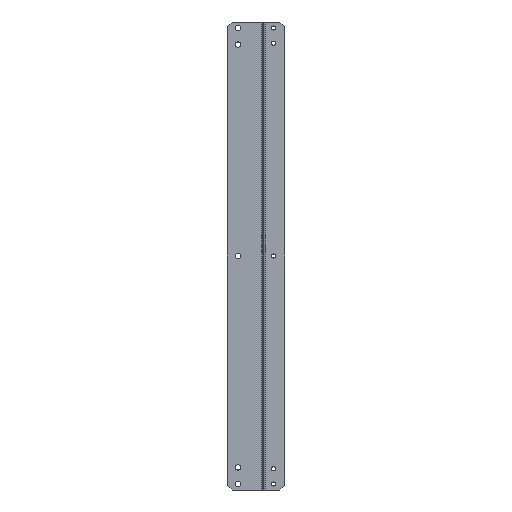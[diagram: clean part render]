
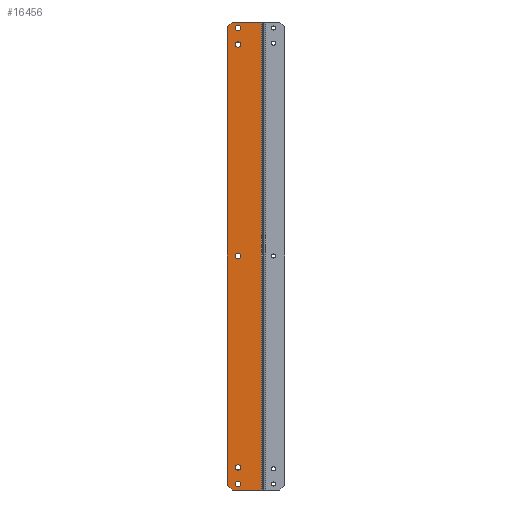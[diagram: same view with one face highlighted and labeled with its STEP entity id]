
A CAD part, left-side view. The second image highlights one B-rep face of the part: STEP entity #16456.
In plain terms, the highlighted planar face has unit normal (-1, 0, 0) as drawn and (1, 0, 0) by its records, which use the part's own axes.
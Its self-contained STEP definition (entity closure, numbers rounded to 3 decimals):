
#14981=CARTESIAN_POINT(' ',(0.,25.,-234.5));
#14982=VERTEX_POINT(' ',#14981);
#14996=CARTESIAN_POINT(' ',(0.,25.,-237.25));
#15001=DIRECTION(' ',(1.,0.,0.));
#15006=DIRECTION(' ',(0.,0.,1.));
#15011=AXIS2_PLACEMENT_3D(' ',#14996,#15001,#15006);
#15016=CIRCLE('',#15011,2.75);
#15021=CARTESIAN_POINT(' ',(0.,25.,-240.));
#15022=VERTEX_POINT(' ',#15021);
#15026=EDGE_CURVE(' ',#14982,#15022,#15016,.T.);
#15781=CARTESIAN_POINT(' ',(0.,25.,-237.25));
#15786=DIRECTION(' ',(1.,0.,0.));
#15791=DIRECTION(' ',(0.,0.,-1.));
#15796=AXIS2_PLACEMENT_3D(' ',#15781,#15786,#15791);
#15801=CIRCLE('',#15796,2.75);
#15806=EDGE_CURVE(' ',#15022,#14982,#15801,.T.);
#15831=DIRECTION(' ',(1.,0.,-0.));
#15836=CARTESIAN_POINT(' ',(0.,0.6,-243.5));
#15841=DIRECTION(' ',(0.,1.,0.));
#15846=AXIS2_PLACEMENT_3D(' ',#15836,#15831,#15841);
#15851=PLANE('NONE',#15846);
#15856=CARTESIAN_POINT(' ',(0.,36.,238.5));
#15861=DIRECTION(' ',(0.,0.,-1.));
#15866=VECTOR(' ',#15861,1.);
#15871=LINE('',#15856,#15866);
#15876=CARTESIAN_POINT(' ',(0.,36.,238.5));
#15877=VERTEX_POINT(' ',#15876);
#15881=CARTESIAN_POINT(' ',(0.,36.,-238.5));
#15882=VERTEX_POINT(' ',#15881);
#15886=EDGE_CURVE(' ',#15877,#15882,#15871,.T.);
#15891=ORIENTED_EDGE(' ',*,*,#15886,.F.);
#15896=CARTESIAN_POINT(' ',(0.,36.,238.5));
#15901=DIRECTION(' ',(0.,-0.707,0.707));
#15906=VECTOR(' ',#15901,1.);
#15911=LINE('',#15896,#15906);
#15916=CARTESIAN_POINT(' ',(0.,31.,243.5));
#15917=VERTEX_POINT(' ',#15916);
#15921=EDGE_CURVE(' ',#15877,#15917,#15911,.T.);
#15926=ORIENTED_EDGE(' ',*,*,#15921,.T.);
#15931=CARTESIAN_POINT(' ',(0.,31.,243.5));
#15936=DIRECTION(' ',(0.,-1.,0.));
#15941=VECTOR(' ',#15936,1.);
#15946=LINE('',#15931,#15941);
#15951=CARTESIAN_POINT(' ',(0.,0.6,243.5));
#15952=VERTEX_POINT(' ',#15951);
#15956=EDGE_CURVE(' ',#15917,#15952,#15946,.T.);
#15961=ORIENTED_EDGE(' ',*,*,#15956,.T.);
#15966=CARTESIAN_POINT(' ',(0.,0.6,243.5));
#15971=DIRECTION(' ',(0.,0.,-1.));
#15976=VECTOR(' ',#15971,1.);
#15981=LINE('',#15966,#15976);
#15986=CARTESIAN_POINT(' ',(0.,0.6,-243.5));
#15987=VERTEX_POINT(' ',#15986);
#15991=EDGE_CURVE(' ',#15952,#15987,#15981,.T.);
#15996=ORIENTED_EDGE(' ',*,*,#15991,.T.);
#16001=CARTESIAN_POINT(' ',(0.,31.,-243.5));
#16006=DIRECTION(' ',(0.,-1.,0.));
#16011=VECTOR(' ',#16006,1.);
#16016=LINE('',#16001,#16011);
#16021=CARTESIAN_POINT(' ',(0.,31.,-243.5));
#16022=VERTEX_POINT(' ',#16021);
#16026=EDGE_CURVE(' ',#16022,#15987,#16016,.T.);
#16031=ORIENTED_EDGE(' ',*,*,#16026,.F.);
#16036=CARTESIAN_POINT(' ',(0.,31.,-243.5));
#16041=DIRECTION(' ',(0.,0.707,0.707));
#16046=VECTOR(' ',#16041,1.);
#16051=LINE('',#16036,#16046);
#16056=EDGE_CURVE(' ',#16022,#15882,#16051,.T.);
#16061=ORIENTED_EDGE(' ',*,*,#16056,.T.);
#16066=EDGE_LOOP(' ',(#15891,#15926,#15961,#15996,#16031,#16061));
#16071=FACE_OUTER_BOUND(' ',#16066,.T.);
#16076=ORIENTED_EDGE(' ',*,*,#15806,.F.);
#16081=ORIENTED_EDGE(' ',*,*,#15026,.F.);
#16086=EDGE_LOOP(' ',(#16076,#16081));
#16091=FACE_BOUND(' ',#16086,.T.);
#16096=CARTESIAN_POINT(' ',(0.,25.,220.));
#16101=DIRECTION(' ',(1.,0.,0.));
#16106=DIRECTION(' ',(0.,0.,-1.));
#16111=AXIS2_PLACEMENT_3D(' ',#16096,#16101,#16106);
#16116=CIRCLE('',#16111,2.75);
#16121=CARTESIAN_POINT(' ',(0.,25.,217.25));
#16122=VERTEX_POINT(' ',#16121);
#16126=CARTESIAN_POINT(' ',(0.,25.,222.75));
#16127=VERTEX_POINT(' ',#16126);
#16131=EDGE_CURVE(' ',#16122,#16127,#16116,.T.);
#16136=ORIENTED_EDGE(' ',*,*,#16131,.F.);
#16141=CARTESIAN_POINT(' ',(0.,25.,220.));
#16146=DIRECTION(' ',(1.,0.,0.));
#16151=DIRECTION(' ',(0.,0.,1.));
#16156=AXIS2_PLACEMENT_3D(' ',#16141,#16146,#16151);
#16161=CIRCLE('',#16156,2.75);
#16166=EDGE_CURVE(' ',#16127,#16122,#16161,.T.);
#16171=ORIENTED_EDGE(' ',*,*,#16166,.F.);
#16176=EDGE_LOOP(' ',(#16136,#16171));
#16181=FACE_BOUND(' ',#16176,.T.);
#16186=CARTESIAN_POINT(' ',(0.,25.,-220.));
#16191=DIRECTION(' ',(1.,0.,0.));
#16196=DIRECTION(' ',(0.,0.,-1.));
#16201=AXIS2_PLACEMENT_3D(' ',#16186,#16191,#16196);
#16206=CIRCLE('',#16201,2.75);
#16211=CARTESIAN_POINT(' ',(0.,25.,-222.75));
#16212=VERTEX_POINT(' ',#16211);
#16216=CARTESIAN_POINT(' ',(0.,25.,-217.25));
#16217=VERTEX_POINT(' ',#16216);
#16221=EDGE_CURVE(' ',#16212,#16217,#16206,.T.);
#16226=ORIENTED_EDGE(' ',*,*,#16221,.F.);
#16231=CARTESIAN_POINT(' ',(0.,25.,-220.));
#16236=DIRECTION(' ',(1.,0.,0.));
#16241=DIRECTION(' ',(0.,0.,1.));
#16246=AXIS2_PLACEMENT_3D(' ',#16231,#16236,#16241);
#16251=CIRCLE('',#16246,2.75);
#16256=EDGE_CURVE(' ',#16217,#16212,#16251,.T.);
#16261=ORIENTED_EDGE(' ',*,*,#16256,.F.);
#16266=EDGE_LOOP(' ',(#16226,#16261));
#16271=FACE_BOUND(' ',#16266,.T.);
#16276=CARTESIAN_POINT(' ',(0.,25.,0.));
#16281=DIRECTION(' ',(1.,0.,0.));
#16286=DIRECTION(' ',(0.,0.,-1.));
#16291=AXIS2_PLACEMENT_3D(' ',#16276,#16281,#16286);
#16296=CIRCLE('',#16291,2.75);
#16301=CARTESIAN_POINT(' ',(0.,25.,-2.75));
#16302=VERTEX_POINT(' ',#16301);
#16306=CARTESIAN_POINT(' ',(0.,25.,2.75));
#16307=VERTEX_POINT(' ',#16306);
#16311=EDGE_CURVE(' ',#16302,#16307,#16296,.T.);
#16316=ORIENTED_EDGE(' ',*,*,#16311,.F.);
#16321=CARTESIAN_POINT(' ',(0.,25.,0.));
#16326=DIRECTION(' ',(1.,0.,0.));
#16331=DIRECTION(' ',(0.,0.,1.));
#16336=AXIS2_PLACEMENT_3D(' ',#16321,#16326,#16331);
#16341=CIRCLE('',#16336,2.75);
#16346=EDGE_CURVE(' ',#16307,#16302,#16341,.T.);
#16351=ORIENTED_EDGE(' ',*,*,#16346,.F.);
#16356=EDGE_LOOP(' ',(#16316,#16351));
#16361=FACE_BOUND(' ',#16356,.T.);
#16366=CARTESIAN_POINT(' ',(0.,25.,237.25));
#16371=DIRECTION(' ',(1.,0.,0.));
#16376=DIRECTION(' ',(0.,0.,-1.));
#16381=AXIS2_PLACEMENT_3D(' ',#16366,#16371,#16376);
#16386=CIRCLE('',#16381,2.75);
#16391=CARTESIAN_POINT(' ',(0.,25.,234.5));
#16392=VERTEX_POINT(' ',#16391);
#16396=CARTESIAN_POINT(' ',(0.,25.,240.));
#16397=VERTEX_POINT(' ',#16396);
#16401=EDGE_CURVE(' ',#16392,#16397,#16386,.T.);
#16406=ORIENTED_EDGE(' ',*,*,#16401,.F.);
#16411=CARTESIAN_POINT(' ',(0.,25.,237.25));
#16416=DIRECTION(' ',(1.,0.,0.));
#16421=DIRECTION(' ',(0.,0.,1.));
#16426=AXIS2_PLACEMENT_3D(' ',#16411,#16416,#16421);
#16431=CIRCLE('',#16426,2.75);
#16436=EDGE_CURVE(' ',#16397,#16392,#16431,.T.);
#16441=ORIENTED_EDGE(' ',*,*,#16436,.F.);
#16446=EDGE_LOOP(' ',(#16406,#16441));
#16451=FACE_BOUND(' ',#16446,.T.);
#16456=ADVANCED_FACE('NONE',(#16071,#16091,#16181,#16271,#16361,#16451),#15851,.T.);
